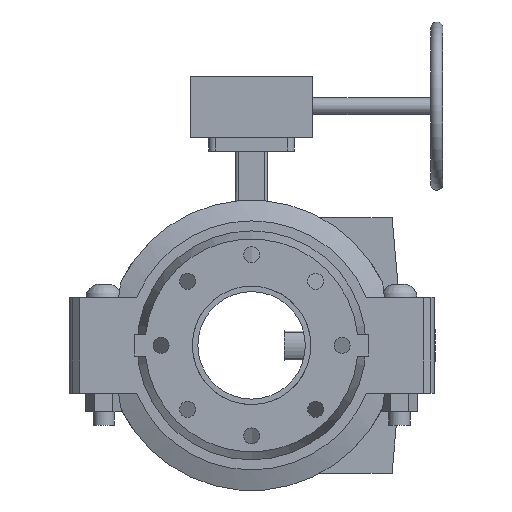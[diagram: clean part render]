
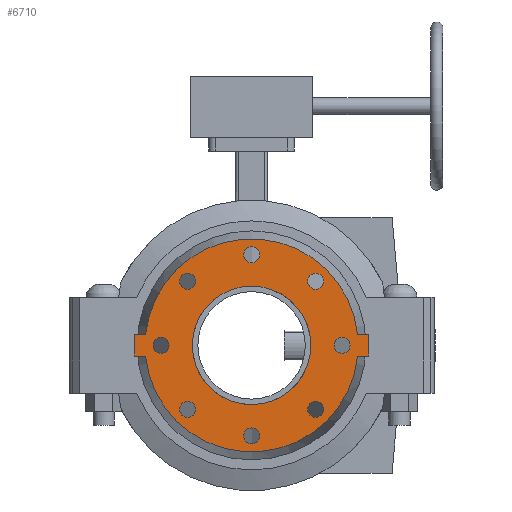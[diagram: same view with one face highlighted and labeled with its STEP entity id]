
A CAD part, front view. The second image highlights one B-rep face of the part: STEP entity #6710.
In plain terms, the highlighted planar face has unit normal (0, -1, 0) as drawn and (0, 0, -1) by its records, which use the part's own axes.
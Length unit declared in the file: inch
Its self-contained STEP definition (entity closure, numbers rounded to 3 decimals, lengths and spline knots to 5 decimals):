
#198=FACE_BOUND('',#894,.T.);
#199=FACE_BOUND('',#895,.T.);
#200=FACE_BOUND('',#896,.T.);
#201=FACE_BOUND('',#897,.T.);
#202=FACE_BOUND('',#898,.T.);
#203=FACE_BOUND('',#899,.T.);
#204=FACE_BOUND('',#900,.T.);
#205=FACE_BOUND('',#901,.T.);
#206=FACE_BOUND('',#902,.T.);
#290=PLANE('',#7314);
#523=FACE_OUTER_BOUND('',#893,.T.);
#893=EDGE_LOOP('',(#4341,#4342,#4343,#4344,#4345,#4346,#4347,#4348));
#894=EDGE_LOOP('',(#4349));
#895=EDGE_LOOP('',(#4350));
#896=EDGE_LOOP('',(#4351));
#897=EDGE_LOOP('',(#4352));
#898=EDGE_LOOP('',(#4353));
#899=EDGE_LOOP('',(#4354));
#900=EDGE_LOOP('',(#4355));
#901=EDGE_LOOP('',(#4356));
#902=EDGE_LOOP('',(#4357,#4358));
#1355=LINE('',#10236,#1845);
#1356=LINE('',#10238,#1846);
#1357=LINE('',#10240,#1847);
#1358=LINE('',#10244,#1848);
#1359=LINE('',#10246,#1849);
#1360=LINE('',#10247,#1850);
#1845=VECTOR('',#8153,0.3937);
#1846=VECTOR('',#8154,0.3937);
#1847=VECTOR('',#8155,0.3937);
#1848=VECTOR('',#8158,0.3937);
#1849=VECTOR('',#8159,0.3937);
#1850=VECTOR('',#8160,0.3937);
#2328=CIRCLE('',#7292,0.375);
#2330=CIRCLE('',#7295,0.375);
#2332=CIRCLE('',#7298,0.375);
#2334=CIRCLE('',#7301,0.375);
#2336=CIRCLE('',#7304,0.375);
#2338=CIRCLE('',#7307,0.375);
#2340=CIRCLE('',#7310,0.375);
#2342=CIRCLE('',#7313,0.375);
#2343=CIRCLE('',#7315,5.);
#2344=CIRCLE('',#7316,5.);
#2345=CIRCLE('',#7317,2.7815);
#2346=CIRCLE('',#7318,2.7815);
#2718=VERTEX_POINT('',#10186);
#2720=VERTEX_POINT('',#10192);
#2722=VERTEX_POINT('',#10198);
#2724=VERTEX_POINT('',#10204);
#2726=VERTEX_POINT('',#10210);
#2728=VERTEX_POINT('',#10216);
#2730=VERTEX_POINT('',#10222);
#2732=VERTEX_POINT('',#10228);
#2733=VERTEX_POINT('',#10232);
#2734=VERTEX_POINT('',#10233);
#2735=VERTEX_POINT('',#10235);
#2736=VERTEX_POINT('',#10237);
#2737=VERTEX_POINT('',#10239);
#2738=VERTEX_POINT('',#10241);
#2739=VERTEX_POINT('',#10243);
#2740=VERTEX_POINT('',#10245);
#2741=VERTEX_POINT('',#10248);
#2742=VERTEX_POINT('',#10249);
#3365=EDGE_CURVE('',#2718,#2718,#2328,.T.);
#3368=EDGE_CURVE('',#2720,#2720,#2330,.T.);
#3371=EDGE_CURVE('',#2722,#2722,#2332,.T.);
#3374=EDGE_CURVE('',#2724,#2724,#2334,.T.);
#3377=EDGE_CURVE('',#2726,#2726,#2336,.T.);
#3380=EDGE_CURVE('',#2728,#2728,#2338,.T.);
#3383=EDGE_CURVE('',#2730,#2730,#2340,.T.);
#3386=EDGE_CURVE('',#2732,#2732,#2342,.T.);
#3387=EDGE_CURVE('',#2733,#2734,#2343,.T.);
#3388=EDGE_CURVE('',#2734,#2735,#1355,.T.);
#3389=EDGE_CURVE('',#2735,#2736,#1356,.T.);
#3390=EDGE_CURVE('',#2736,#2737,#1357,.T.);
#3391=EDGE_CURVE('',#2737,#2738,#2344,.T.);
#3392=EDGE_CURVE('',#2738,#2739,#1358,.T.);
#3393=EDGE_CURVE('',#2739,#2740,#1359,.T.);
#3394=EDGE_CURVE('',#2740,#2733,#1360,.T.);
#3395=EDGE_CURVE('',#2741,#2742,#2345,.T.);
#3396=EDGE_CURVE('',#2742,#2741,#2346,.T.);
#4341=ORIENTED_EDGE('',*,*,#3387,.T.);
#4342=ORIENTED_EDGE('',*,*,#3388,.T.);
#4343=ORIENTED_EDGE('',*,*,#3389,.T.);
#4344=ORIENTED_EDGE('',*,*,#3390,.T.);
#4345=ORIENTED_EDGE('',*,*,#3391,.T.);
#4346=ORIENTED_EDGE('',*,*,#3392,.T.);
#4347=ORIENTED_EDGE('',*,*,#3393,.T.);
#4348=ORIENTED_EDGE('',*,*,#3394,.T.);
#4349=ORIENTED_EDGE('',*,*,#3365,.T.);
#4350=ORIENTED_EDGE('',*,*,#3368,.T.);
#4351=ORIENTED_EDGE('',*,*,#3371,.T.);
#4352=ORIENTED_EDGE('',*,*,#3374,.T.);
#4353=ORIENTED_EDGE('',*,*,#3377,.T.);
#4354=ORIENTED_EDGE('',*,*,#3380,.T.);
#4355=ORIENTED_EDGE('',*,*,#3383,.T.);
#4356=ORIENTED_EDGE('',*,*,#3386,.T.);
#4357=ORIENTED_EDGE('',*,*,#3395,.T.);
#4358=ORIENTED_EDGE('',*,*,#3396,.T.);
#6710=ADVANCED_FACE('',(#523,#198,#199,#200,#201,#202,#203,#204,#205,#206),
#290,.T.);
#7292=AXIS2_PLACEMENT_3D('',#10188,#8098,#8099);
#7295=AXIS2_PLACEMENT_3D('',#10194,#8105,#8106);
#7298=AXIS2_PLACEMENT_3D('',#10200,#8112,#8113);
#7301=AXIS2_PLACEMENT_3D('',#10206,#8119,#8120);
#7304=AXIS2_PLACEMENT_3D('',#10212,#8126,#8127);
#7307=AXIS2_PLACEMENT_3D('',#10218,#8133,#8134);
#7310=AXIS2_PLACEMENT_3D('',#10224,#8140,#8141);
#7313=AXIS2_PLACEMENT_3D('',#10230,#8147,#8148);
#7314=AXIS2_PLACEMENT_3D('',#10231,#8149,#8150);
#7315=AXIS2_PLACEMENT_3D('',#10234,#8151,#8152);
#7316=AXIS2_PLACEMENT_3D('',#10242,#8156,#8157);
#7317=AXIS2_PLACEMENT_3D('',#10250,#8161,#8162);
#7318=AXIS2_PLACEMENT_3D('',#10251,#8163,#8164);
#8098=DIRECTION('center_axis',(0.,0.,1.));
#8099=DIRECTION('ref_axis',(-0.707,0.707,0.));
#8105=DIRECTION('center_axis',(0.,0.,1.));
#8106=DIRECTION('ref_axis',(0.,1.,0.));
#8112=DIRECTION('center_axis',(0.,0.,1.));
#8113=DIRECTION('ref_axis',(0.707,0.707,0.));
#8119=DIRECTION('center_axis',(0.,0.,1.));
#8120=DIRECTION('ref_axis',(1.,0.,0.));
#8126=DIRECTION('center_axis',(0.,0.,1.));
#8127=DIRECTION('ref_axis',(0.707,-0.707,0.));
#8133=DIRECTION('center_axis',(0.,0.,1.));
#8134=DIRECTION('ref_axis',(0.,-1.,0.));
#8140=DIRECTION('center_axis',(0.,0.,1.));
#8141=DIRECTION('ref_axis',(-0.707,-0.707,0.));
#8147=DIRECTION('center_axis',(0.,0.,1.));
#8148=DIRECTION('ref_axis',(-1.,0.,0.));
#8149=DIRECTION('center_axis',(0.,0.,-1.));
#8150=DIRECTION('ref_axis',(-1.,0.,0.));
#8151=DIRECTION('center_axis',(0.,0.,-1.));
#8152=DIRECTION('ref_axis',(-1.,0.,0.));
#8153=DIRECTION('',(0.,1.,0.));
#8154=DIRECTION('',(1.,0.,0.));
#8155=DIRECTION('',(0.,-1.,0.));
#8156=DIRECTION('center_axis',(0.,0.,-1.));
#8157=DIRECTION('ref_axis',(-1.,0.,0.));
#8158=DIRECTION('',(0.,-1.,0.));
#8159=DIRECTION('',(-1.,0.,0.));
#8160=DIRECTION('',(0.,1.,0.));
#8161=DIRECTION('center_axis',(0.,0.,1.));
#8162=DIRECTION('ref_axis',(-1.,0.,0.));
#8163=DIRECTION('center_axis',(0.,0.,1.));
#8164=DIRECTION('ref_axis',(-1.,0.,0.));
#10186=CARTESIAN_POINT('',(-2.74004,2.74004,-0.5));
#10188=CARTESIAN_POINT('Origin',(-3.0052,3.0052,-0.5));
#10192=CARTESIAN_POINT('',(0.,3.875,-0.5));
#10194=CARTESIAN_POINT('Origin',(0.,4.25,-0.5));
#10198=CARTESIAN_POINT('',(2.74004,2.74004,-0.5));
#10200=CARTESIAN_POINT('Origin',(3.0052,3.0052,-0.5));
#10204=CARTESIAN_POINT('',(3.875,0.,-0.5));
#10206=CARTESIAN_POINT('Origin',(4.25,0.,-0.5));
#10210=CARTESIAN_POINT('',(2.74004,-2.74004,-0.5));
#10212=CARTESIAN_POINT('Origin',(3.0052,-3.0052,-0.5));
#10216=CARTESIAN_POINT('',(0.,-3.875,-0.5));
#10218=CARTESIAN_POINT('Origin',(0.,-4.25,-0.5));
#10222=CARTESIAN_POINT('',(-2.74004,-2.74004,-0.5));
#10224=CARTESIAN_POINT('Origin',(-3.0052,-3.0052,-0.5));
#10228=CARTESIAN_POINT('',(-3.875,0.,-0.5));
#10230=CARTESIAN_POINT('Origin',(-4.25,0.,-0.5));
#10231=CARTESIAN_POINT('Origin',(0.,0.,-0.5));
#10232=CARTESIAN_POINT('',(-0.5,-4.97494,-0.5));
#10233=CARTESIAN_POINT('',(-0.5,4.97494,-0.5));
#10234=CARTESIAN_POINT('Origin',(0.,0.,-0.5));
#10235=CARTESIAN_POINT('',(-0.5,5.5,-0.5));
#10236=CARTESIAN_POINT('',(-0.5,-5.5,-0.5));
#10237=CARTESIAN_POINT('',(0.5,5.5,-0.5));
#10238=CARTESIAN_POINT('',(-0.5,5.5,-0.5));
#10239=CARTESIAN_POINT('',(0.5,4.97494,-0.5));
#10240=CARTESIAN_POINT('',(0.5,5.5,-0.5));
#10241=CARTESIAN_POINT('',(0.5,-4.97494,-0.5));
#10242=CARTESIAN_POINT('Origin',(0.,0.,-0.5));
#10243=CARTESIAN_POINT('',(0.5,-5.5,-0.5));
#10244=CARTESIAN_POINT('',(0.5,5.5,-0.5));
#10245=CARTESIAN_POINT('',(-0.5,-5.5,-0.5));
#10246=CARTESIAN_POINT('',(0.5,-5.5,-0.5));
#10247=CARTESIAN_POINT('',(-0.5,-5.5,-0.5));
#10248=CARTESIAN_POINT('',(0.5,2.73619,-0.5));
#10249=CARTESIAN_POINT('',(2.7815,0.,-0.5));
#10250=CARTESIAN_POINT('Origin',(0.,0.,-0.5));
#10251=CARTESIAN_POINT('Origin',(0.,0.,-0.5));
